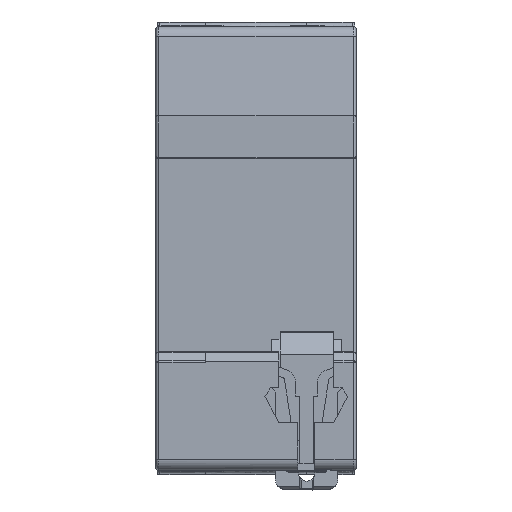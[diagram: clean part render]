
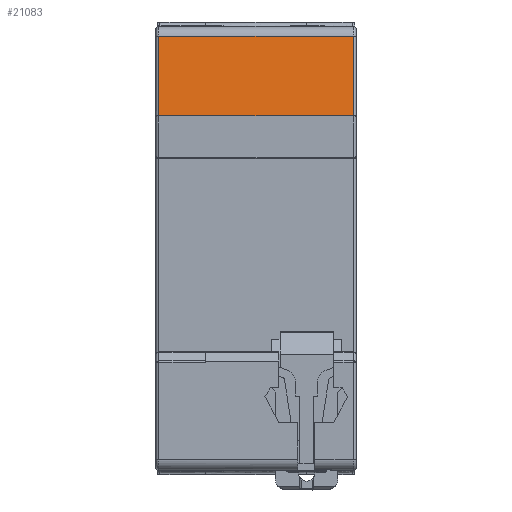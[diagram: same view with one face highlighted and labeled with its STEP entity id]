
A CAD part, left-side view. The second image highlights one B-rep face of the part: STEP entity #21083.
In plain terms, the highlighted planar face has unit normal (-0.993, 0, 0.122) as drawn and (0, 0.122, -0.993) by its records, which use the part's own axes.
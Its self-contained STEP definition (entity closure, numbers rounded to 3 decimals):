
#283 = ORIENTED_EDGE ( 'NONE', *, *, #14582, .T. ) ;
#7061 = ORIENTED_EDGE ( 'NONE', *, *, #110826, .T. ) ;
#7906 = CARTESIAN_POINT ( 'NONE',  ( -16.241, 19.659, -61.147 ) ) ;
#9491 = PLANE ( 'NONE',  #93280 ) ;
#12238 = ORIENTED_EDGE ( 'NONE', *, *, #134827, .F. ) ;
#13658 = EDGE_LOOP ( 'NONE', ( #89538, #12238, #283, #7061 ) ) ;
#14582 = EDGE_CURVE ( 'NONE', #138669, #138993, #24152, .T. ) ;
#18047 = LINE ( 'NONE', #57443, #48519 ) ;
#21083 = ADVANCED_FACE ( 'NONE', ( #146436 ), #9491, .F. ) ;
#24152 = LINE ( 'NONE', #49092, #41857 ) ;
#41857 = VECTOR ( 'NONE', #74066, 1000. ) ;
#44482 = CARTESIAN_POINT ( 'NONE',  ( 35.4, 19.659, -61.147 ) ) ;
#48519 = VECTOR ( 'NONE', #78431, 1000. ) ;
#48648 = EDGE_CURVE ( 'NONE', #91482, #154780, #18047, .T. ) ;
#49092 = CARTESIAN_POINT ( 'NONE',  ( 35.4, 33.903, -59.401 ) ) ;
#57203 = DIRECTION ( 'NONE',  ( -1., 0., 0. ) ) ;
#57443 = CARTESIAN_POINT ( 'NONE',  ( 0.6, 19.659, -61.147 ) ) ;
#62212 = CARTESIAN_POINT ( 'NONE',  ( 0.6, 33.903, -59.401 ) ) ;
#67719 = LINE ( 'NONE', #129778, #147768 ) ;
#71024 = LINE ( 'NONE', #44482, #105311 ) ;
#74066 = DIRECTION ( 'NONE',  ( 0., -0.993, -0.122 ) ) ;
#78431 = DIRECTION ( 'NONE',  ( 0., 0.993, 0.122 ) ) ;
#89538 = ORIENTED_EDGE ( 'NONE', *, *, #48648, .T. ) ;
#91482 = VERTEX_POINT ( 'NONE', #156853 ) ;
#93280 = AXIS2_PLACEMENT_3D ( 'NONE', #7906, #94085, #131174 ) ;
#94085 = DIRECTION ( 'NONE',  ( 0., -0.122, 0.993 ) ) ;
#105311 = VECTOR ( 'NONE', #130700, 1000. ) ;
#110826 = EDGE_CURVE ( 'NONE', #138993, #91482, #71024, .T. ) ;
#129778 = CARTESIAN_POINT ( 'NONE',  ( 35.4, 33.903, -59.401 ) ) ;
#130700 = DIRECTION ( 'NONE',  ( -1., 0., 0. ) ) ;
#131174 = DIRECTION ( 'NONE',  ( 1., 0., 0. ) ) ;
#134827 = EDGE_CURVE ( 'NONE', #138669, #154780, #67719, .T. ) ;
#138669 = VERTEX_POINT ( 'NONE', #142683 ) ;
#138993 = VERTEX_POINT ( 'NONE', #151186 ) ;
#142683 = CARTESIAN_POINT ( 'NONE',  ( 35.4, 33.903, -59.401 ) ) ;
#146436 = FACE_OUTER_BOUND ( 'NONE', #13658, .T. ) ;
#147768 = VECTOR ( 'NONE', #57203, 1000. ) ;
#151186 = CARTESIAN_POINT ( 'NONE',  ( 35.4, 19.659, -61.147 ) ) ;
#154780 = VERTEX_POINT ( 'NONE', #62212 ) ;
#156853 = CARTESIAN_POINT ( 'NONE',  ( 0.6, 19.659, -61.147 ) ) ;
